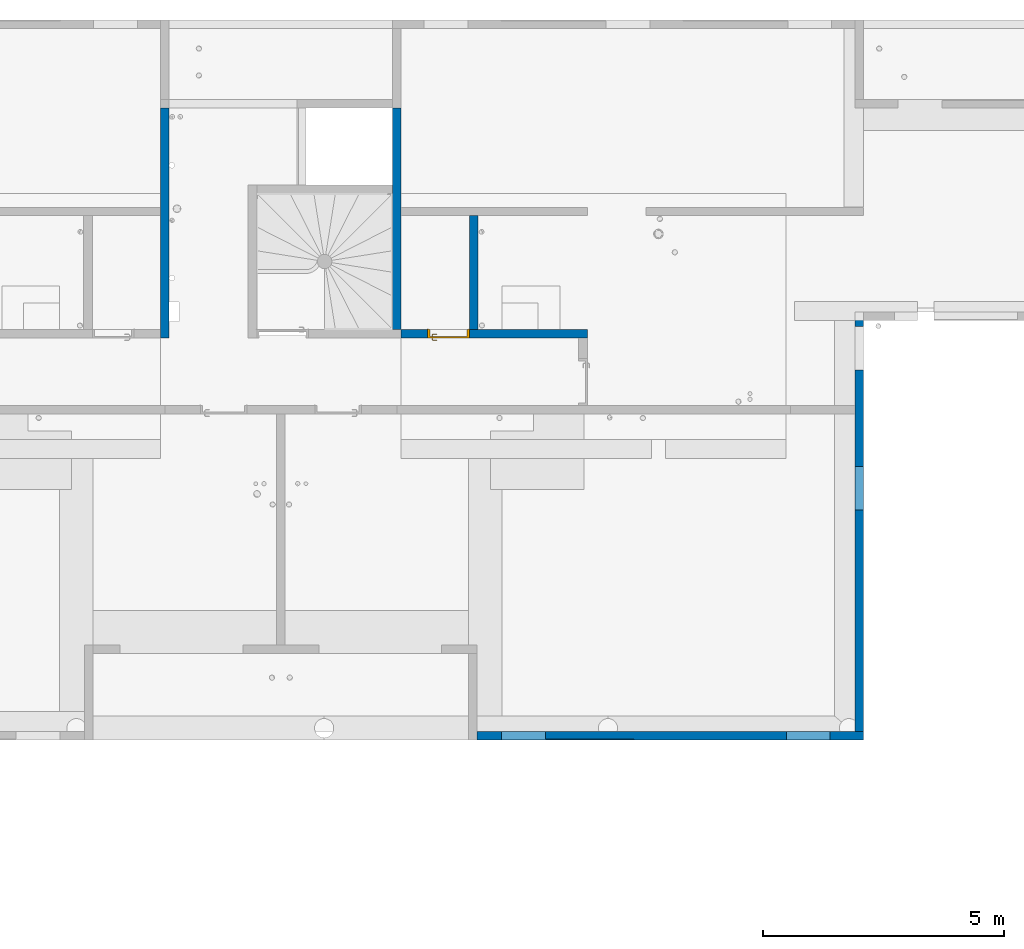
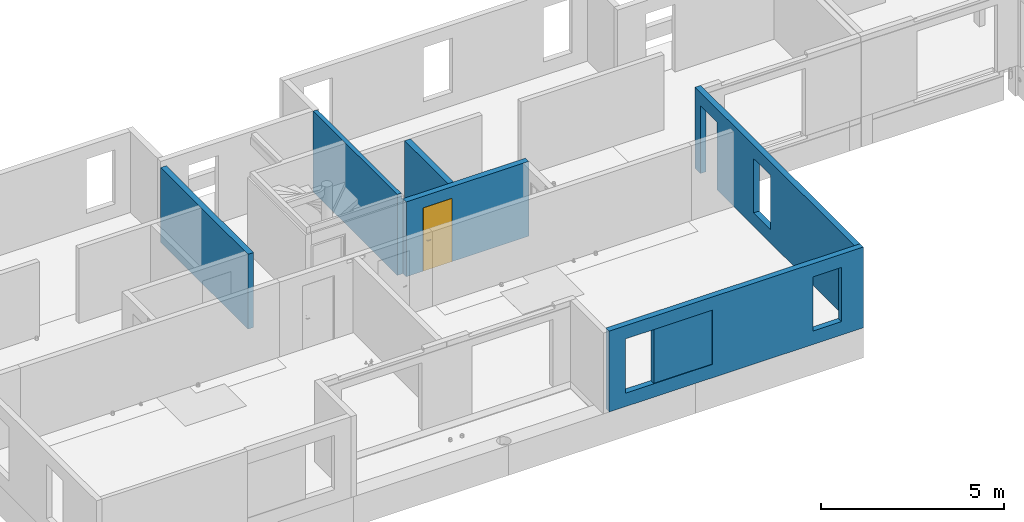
# One storey, part 11 of 34: 6 walls, 1 door, 8 openings.
"""IFC2X3 building model written with IfcOpenShell, lengths in centimetres."""

from ifc_helpers import new_model, entity, si_unit, converted_unit, derived_unit, direction, frame, frame_2d, origin, origin_2d_with_axis, place, context, subcontext, project, spatial, polyline, rectangle, extrude, clip, bounded_halfspace, faceted_brep, source, transform, mapped, material, material_list, layer, layer_set, layer_usage, type_object, type_shapes, element, fill, save


model = new_model("IFC2X3")

# Units and contexts
model_context = context("Model", 3, precision=0.001, world=origin(), true_north=direction((6.12303176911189e-17, 1.0)))
body_context = subcontext(model_context, "Body", "Model", "MODEL_VIEW")
ifc_project = project(units=[si_unit("LENGTHUNIT", "METRE", prefix="CENTI"), si_unit("AREAUNIT", "SQUARE_METRE"), si_unit("VOLUMEUNIT", "CUBIC_METRE"), converted_unit("PLANEANGLEUNIT", "DEGREE", entity("IfcRatioMeasure", 0.0174532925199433), si_unit("PLANEANGLEUNIT", "RADIAN"), dimensions=[0, 0, 0, 0, 0, 0, 0]), si_unit("MASSUNIT", "GRAM", prefix="KILO"), derived_unit("MASSDENSITYUNIT", [(si_unit("MASSUNIT", "GRAM", prefix="KILO"), 1), (si_unit("LENGTHUNIT", "METRE"), -3)]), si_unit("TIMEUNIT", "SECOND"), si_unit("FREQUENCYUNIT", "HERTZ"), si_unit("THERMODYNAMICTEMPERATUREUNIT", "DEGREE_CELSIUS"), derived_unit("THERMALTRANSMITTANCEUNIT", [(si_unit("MASSUNIT", "GRAM", prefix="KILO"), 1), (si_unit("THERMODYNAMICTEMPERATUREUNIT", "KELVIN"), -1), (si_unit("TIMEUNIT", "SECOND"), -3)]), derived_unit("VOLUMETRICFLOWRATEUNIT", [(si_unit("LENGTHUNIT", "METRE"), 3), (si_unit("TIMEUNIT", "SECOND"), -1)]), si_unit("ELECTRICCURRENTUNIT", "AMPERE"), si_unit("ELECTRICVOLTAGEUNIT", "VOLT"), si_unit("POWERUNIT", "WATT"), si_unit("FORCEUNIT", "NEWTON"), si_unit("ILLUMINANCEUNIT", "LUX"), si_unit("LUMINOUSFLUXUNIT", "LUMEN"), si_unit("LUMINOUSINTENSITYUNIT", "CANDELA"), derived_unit("USERDEFINED", [(si_unit("MASSUNIT", "GRAM", prefix="KILO"), -1), (si_unit("LENGTHUNIT", "METRE"), -2), (si_unit("TIMEUNIT", "SECOND"), 3), (si_unit("LUMINOUSFLUXUNIT", "LUMEN"), 1)]), derived_unit("LINEARVELOCITYUNIT", [(si_unit("LENGTHUNIT", "METRE"), 1), (si_unit("TIMEUNIT", "SECOND"), -1)]), si_unit("PRESSUREUNIT", "PASCAL"), derived_unit("USERDEFINED", [(si_unit("LENGTHUNIT", "METRE"), -2), (si_unit("MASSUNIT", "GRAM", prefix="KILO"), 1), (si_unit("TIMEUNIT", "SECOND"), -2)])], contexts=[model_context])

# Site, building, storey
site_placement = place(None, origin())
site = spatial("IfcSite", under=ifc_project, at=site_placement, Name="Default", CompositionType="ELEMENT")
building_placement = place(site_placement, origin())
building = spatial("IfcBuilding", under=site, at=building_placement, Name="CAGE 03", CompositionType="ELEMENT")
storey_placement = place(building_placement, frame((0.0, 0.0, 340.0)))
storey = spatial("IfcBuildingStorey", under=building, at=storey_placement, Name="R+1", CompositionType="ELEMENT", Elevation=340.0)

# Wall, openings
ifc_material_1 = material(Name="Béton, C25/30")
ifc_layer_1 = layer(ifc_material_1, 18.0)
ifc_layer_set_1 = layer_set([ifc_layer_1], Name="Mur de base:Voile BA 18")
ifc_layer_usage_1 = layer_usage(ifc_layer_set_1, "AXIS2", "POSITIVE", -9.0)
wall_type_1 = type_object("IfcWallType", Name="Mur de base:Voile BA 18", PredefinedType="STANDARD", material=ifc_layer_set_1)
wall_1_placement = place(storey_placement, frame((7489.36582014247, 3805.6606660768, 0.0)))
wall_1 = element("IfcWallStandardCase", 1, at=wall_1_placement, inside=storey, type_object=wall_type_1, material=ifc_layer_usage_1, Name="Mur de base:Voile BA 18", ObjectType="Mur de base:Voile BA 18", context=body_context, shape_type="SweptSolid", body=[
    extrude(rectangle(XDim=803.000000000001, YDim=18.0000000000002, at=frame_2d((401.500000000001, -2.8421709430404e-14), x_axis=(-1.0, 0.0))), origin(), (0.0, 0.0, 1.0), 270.0),
])
opening_1_placement = place(wall_1_placement, origin())
element("IfcOpeningElement", 2, at=opening_1_placement, cuts=wall_1, Name="Mur de base:Voile BA 18", ObjectType="Recess", context=body_context, shape_type="SweptSolid", body=[
    extrude(rectangle(XDim=181.0, YDim=184.0, at=origin_2d_with_axis()), frame((234.0, -9.0, 135.5), z_axis=(0.0, 1.0, 0.0), x_axis=(0.0, 0.0, -1.0)), (0.0, 0.0, 1.0), 1.99999999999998),
])
opening_2_placement = place(wall_1_placement, origin())
element("IfcOpeningElement", 3, at=opening_2_placement, cuts=wall_1, Name="Mur de base:Voile BA 18", ObjectType="Recess", context=body_context, shape_type="SweptSolid", body=[
    extrude(rectangle(XDim=181.0, YDim=184.0, at=origin_2d_with_axis()), frame((-1050.0, -9.0, 135.5), z_axis=(0.0, 1.0, 0.0), x_axis=(0.0, 0.0, -1.0)), (0.0, 0.0, 1.0), 1.99999999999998),
])
opening_3_placement = place(wall_1_placement, frame((-7489.36582014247, -3805.6606660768, 0.0)))
element("IfcOpeningElement", 4, at=opening_3_placement, cuts=wall_1, Name="Mur de base:Voile BA 18", ObjectType="Opening", context=body_context, shape_type="SweptSolid", body=[
    extrude(rectangle(XDim=181.0, YDim=91.0000000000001, at=frame_2d((0.0, 0.0), x_axis=(0.0, 1.0))), frame((7585.86582014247, 3644.2606660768, 135.5), z_axis=(0.0, 1.0, 0.0), x_axis=(-1.0, 0.0, 0.0)), (0.0, 0.0, 1.0), 304.8),
])
opening_4_placement = place(wall_1_placement, frame((-7489.36582014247, -3805.6606660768, 0.0)))
element("IfcOpeningElement", 5, at=opening_4_placement, cuts=wall_1, Name="Mur de base:Voile BA 18", ObjectType="Opening", context=body_context, shape_type="SweptSolid", body=[
    extrude(rectangle(XDim=181.0, YDim=91.0000000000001, at=frame_2d((0.0, 0.0), x_axis=(0.0, 1.0))), frame((8177.86582014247, 3644.2606660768, 135.5), z_axis=(0.0, 1.0, 0.0), x_axis=(-1.0, 0.0, 0.0)), (0.0, 0.0, 1.0), 304.8),
])

ifc_layer_usage_2 = layer_usage(ifc_layer_set_1, "AXIS2", "POSITIVE", -9.0)
wall_2_placement = place(storey_placement, frame((8283.36582014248, 3814.6606660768, 0.0), z_axis=(0.0, 0.0, 1.0), x_axis=(0.0, 1.0, 0.0)))
wall_2 = element("IfcWallStandardCase", 6, at=wall_2_placement, inside=storey, type_object=wall_type_1, material=ifc_layer_usage_2, Name="Mur de base:Voile BA 18", ObjectType="Mur de base:Voile BA 18", context=body_context, shape_type="SweptSolid", body=[
    extrude(rectangle(XDim=871.999999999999, YDim=17.9999999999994, at=frame_2d((436.0, -4.15667500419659e-13), x_axis=(-1.0, 0.0))), origin(), (0.0, 0.0, 1.0), 270.0),
])
opening_5_placement = place(wall_2_placement, origin())
element("IfcOpeningElement", 7, at=opening_5_placement, cuts=wall_2, Name="Mur de base:Voile BA 18", ObjectType="Opening", context=body_context, shape_type="SweptSolid", body=[
    extrude(rectangle(XDim=226.0, YDim=91.0000000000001, at=frame_2d((-5.6843418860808e-14, 0.0), x_axis=(1.0, 0.0))), frame((796.499999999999, -143.4, 383.0), z_axis=(0.0, 1.0, 0.0), x_axis=(0.0, 0.0, 1.0)), (0.0, 0.0, 1.0), 304.8),
])
opening_6_placement = place(wall_2_placement, frame((-3814.6606660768, 8283.36582014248, 0.0), z_axis=(0.0, 0.0, 1.0), x_axis=(0.0, -1.0, 0.0)))
element("IfcOpeningElement", 8, at=opening_6_placement, cuts=wall_2, Name="Mur de base:Voile BA 18", ObjectType="Opening", context=body_context, shape_type="SweptSolid", body=[
    extrude(rectangle(XDim=226.0, YDim=91.0000000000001, at=frame_2d((5.6843418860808e-14, 0.0), x_axis=(1.0, 0.0))), frame((8426.76582014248, 4611.1606660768, 113.0), z_axis=(-1.0, 0.0, 0.0), x_axis=(0.0, 0.0, 1.0)), (0.0, 0.0, 1.0), 304.8),
])
opening_7_placement = place(wall_2_placement, frame((-3814.6606660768, 8283.36582014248, 0.0), z_axis=(0.0, 0.0, 1.0), x_axis=(0.0, -1.0, 0.0)))
element("IfcOpeningElement", 9, at=opening_7_placement, cuts=wall_2, Name="Mur de base:Voile BA 18", ObjectType="Opening", context=body_context, shape_type="SweptSolid", body=[
    extrude(rectangle(XDim=181.0, YDim=91.0000000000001, at=origin_2d_with_axis()), frame((8426.76582014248, 4320.16066607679, 135.5), z_axis=(-1.0, 0.0, 0.0), x_axis=(0.0, 0.0, 1.0)), (0.0, 0.0, 1.0), 304.8),
])

# Walls
ifc_layer_usage_3 = layer_usage(ifc_layer_set_1, "AXIS2", "NEGATIVE", 9.0)
wall_3_placement = place(storey_placement, frame((6840.36582014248, 5110.6606660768, 0.0), z_axis=(0.0, 0.0, 1.0), x_axis=(0.0, -1.0, 0.0)))
element("IfcWallStandardCase", 10, at=wall_3_placement, inside=storey, type_object=wall_type_1, material=ifc_layer_usage_3, Name="Mur de base:Voile BA 18", ObjectType="Mur de base:Voile BA 18", context=body_context, shape_type="SweptSolid", body=[
    extrude(rectangle(XDim=478.0, YDim=17.9999999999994, at=frame_2d((239.0, 1.67865721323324e-13), x_axis=(-1.0, 0.0))), origin(), (0.0, 0.0, 1.0), 250.0),
])
ifc_layer_usage_4 = layer_usage(ifc_layer_set_1, "AXIS2", "POSITIVE", -9.0)
wall_4_placement = place(storey_placement, frame((7482.36582014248, 4887.6606660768, 0.0), z_axis=(0.0, 0.0, 1.0), x_axis=(0.0, -1.0, 0.0)))
element("IfcWallStandardCase", 11, at=wall_4_placement, inside=storey, type_object=wall_type_1, material=ifc_layer_usage_4, Name="Mur de base:Voile BA 18", ObjectType="Mur de base:Voile BA 18", context=body_context, shape_type="SweptSolid", body=[
    extrude(rectangle(XDim=236.999999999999, YDim=17.9999999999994, at=frame_2d((118.499999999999, 0.0), x_axis=(-1.0, 0.0))), origin(), (0.0, 0.0, 1.0), 250.0),
])

# Wall, opening, door
ifc_layer_usage_5 = layer_usage(ifc_layer_set_1, "AXIS2", "NEGATIVE", 9.0)
wall_5_placement = place(storey_placement, frame((7331.36582014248, 4641.6606660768, 0.0)))
wall_5 = element("IfcWallStandardCase", 12, at=wall_5_placement, inside=storey, type_object=wall_type_1, material=ifc_layer_usage_5, Name="Mur de base:Voile BA 18", ObjectType="Mur de base:Voile BA 18", context=body_context, shape_type="SweptSolid", body=[
    extrude(rectangle(XDim=386.999999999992, YDim=17.9999999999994, at=frame_2d((193.499999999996, -1.16351372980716e-13), x_axis=(-1.0, 0.0))), origin(), (0.0, 0.0, 1.0), 250.0),
])
opening_8_placement = place(wall_5_placement, frame((142.0, 9.0, 0.0)))
opening_8 = element("IfcOpeningElement", 13, at=opening_8_placement, cuts=wall_5, Name="Int. Simple:HB83:1", ObjectType="Opening", context=body_context, shape_type="SweptSolid", body=[
    extrude(rectangle(XDim=210.000000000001, YDim=86.9999999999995, at=frame_2d((105.000000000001, 43.4999999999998), x_axis=(1.0, 0.0))), frame((0.0, 0.0, 0.0), z_axis=(0.0, -1.0, 0.0), x_axis=(0.0, 0.0, 1.0)), (0.0, 0.0, 1.0), 18.0),
])
ifc_material_2 = material(Name="Finition Peinture - Blanc satiné")
ifc_material_3 = material(Name="Bois - Panneau de porte")
ifc_material_4 = material(Name="Bois - Cadre de porte")
ifc_material_list_1 = material_list([ifc_material_2, ifc_material_3, ifc_material_4])
ifc_material_list_2 = material_list([ifc_material_2, ifc_material_3, ifc_material_4])
door_style = type_object("IfcDoorStyle", Name="HB83", ConstructionType="NOTDEFINED", OperationType="SINGLE_SWING_LEFT", ParameterTakesPrecedence=False, Sizeable=False, material=ifc_material_list_2)
shared_shape = source(origin(), body_context, "Body", "Brep", [
    faceted_brep([(10.5352761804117, -0.500000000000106, 86.6003983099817), (11.5000000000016, -0.500000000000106, 87.0), (11.5000000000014, -0.500000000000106, 108.0), (10.5352761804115, -0.500000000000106, 108.399601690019), (9.50000000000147, -0.500000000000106, 108.535898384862), (8.4647238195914, -0.500000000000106, 108.399601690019), (7.5000000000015, -0.500000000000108, 108.0), (7.50000000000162, -0.500000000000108, 87.0), (8.46472381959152, -0.500000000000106, 86.6003983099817), (9.50000000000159, -0.500000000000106, 86.464101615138), (10.5352761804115, 0.0, 108.399601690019), (11.5000000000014, 0.0, 108.0), (11.5000000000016, 0.0, 87.0), (10.5352761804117, 0.0, 86.6003983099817), (9.50000000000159, 0.0, 86.464101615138), (8.46472381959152, 0.0, 86.6003983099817), (7.50000000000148, 0.0, 87.0), (7.5000000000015, 0.0, 108.0), (8.4647238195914, 0.0, 108.399601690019), (9.50000000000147, 0.0, 108.535898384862)], [[[0, 1, 2, 3, 4, 5, 6, 7, 8, 9]], [[10, 11, 12, 13, 14, 15, 16, 17, 18, 19]], [[16, 15, 8, 7]], [[8, 15, 14, 9]], [[14, 13, 0, 9]], [[13, 12, 1, 0]], [[2, 1, 12, 11]], [[11, 10, 3, 2]], [[3, 10, 19, 4]], [[19, 18, 5, 4]], [[18, 17, 6, 5]], [[7, 6, 17, 16]]]),
    faceted_brep([(10.5352761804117, 3.0, 86.6003983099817), (11.5000000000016, 3.0, 87.0), (11.5000000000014, 3.0, 108.0), (10.5352761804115, 3.0, 108.399601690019), (9.50000000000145, 3.0, 108.535898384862), (8.46472381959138, 3.0, 108.399601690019), (7.50000000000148, 3.0, 108.0), (7.50000000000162, 3.0, 87.0), (8.46472381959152, 3.0, 86.6003983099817), (9.5000000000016, 3.0, 86.464101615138), (10.5352761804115, 3.49999999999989, 108.399601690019), (11.5000000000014, 3.49999999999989, 108.0), (11.5000000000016, 3.49999999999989, 87.0), (10.5352761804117, 3.49999999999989, 86.6003983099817), (9.5000000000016, 3.49999999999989, 86.464101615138), (8.46472381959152, 3.49999999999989, 86.6003983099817), (7.50000000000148, 3.49999999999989, 87.0), (7.50000000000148, 3.49999999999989, 108.0), (8.46472381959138, 3.49999999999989, 108.399601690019), (9.50000000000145, 3.49999999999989, 108.535898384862)], [[[0, 1, 2, 3, 4, 5, 6, 7, 8, 9]], [[10, 11, 12, 13, 14, 15, 16, 17, 18, 19]], [[11, 10, 3, 2]], [[3, 10, 19, 4]], [[19, 18, 5, 4]], [[18, 17, 6, 5]], [[7, 6, 17, 16]], [[16, 15, 8, 7]], [[8, 15, 14, 9]], [[14, 13, 0, 9]], [[13, 12, 1, 0]], [[2, 1, 12, 11]]]),
    faceted_brep([(9.2974701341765, -0.500000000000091, 100.778044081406), (9.70252986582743, -0.500000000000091, 100.778044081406), (10.1000000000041, -0.500000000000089, 100.699999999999), (10.1000000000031, -0.500000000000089, 99.3000000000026), (9.70252986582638, -0.500000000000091, 99.2219559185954), (9.29747013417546, -0.500000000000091, 99.2219559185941), (8.89999999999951, -0.500000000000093, 99.2999999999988), (8.8999999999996, -0.500000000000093, 100.7), (8.89999999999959, -3.26509507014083, 100.7), (9.29747013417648, -3.1004575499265, 100.778044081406), (10.9023585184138, -4.70534593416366, 100.778044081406), (11.0701397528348, -4.30028620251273, 100.778044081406), (9.70252986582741, -2.93267631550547, 100.778044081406), (10.1000000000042, -2.76803879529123, 100.7), (10.1000000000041, -2.76803879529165, 99.3000000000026), (9.70252986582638, -2.93267631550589, 99.2219559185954), (11.0701397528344, -4.30028620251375, 99.2219559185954), (10.9023585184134, -4.70534593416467, 99.2219559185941), (9.29747013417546, -3.10045754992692, 99.2219559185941), (8.89999999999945, -3.26509507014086, 99.2999999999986), (10.7377209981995, -5.10281606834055, 100.7), (11.2347772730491, -3.90281606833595, 100.7), (11.2347772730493, -3.90281606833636, 99.3000000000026), (10.7377209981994, -5.10281606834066, 99.2999999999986), (19.5018640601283, -5.10281606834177, 99.2999999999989), (19.5018640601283, -4.70534593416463, 99.2219559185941), (19.5018640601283, -4.30028620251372, 99.2219559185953), (19.5018640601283, -3.90281606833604, 99.3000000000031), (19.5018640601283, -3.90281606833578, 100.7), (19.5018640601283, -4.30028620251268, 100.778044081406), (19.5018640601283, -4.7053459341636, 100.778044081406), (19.5018640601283, -5.10281606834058, 100.699999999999), (14.7307697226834, -5.10281606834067, 100.7), (15.2860019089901, -4.50281606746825, 100.78786867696), (15.3683206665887, -3.90281606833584, 100.7), (15.3683206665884, -3.90281606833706, 99.3000000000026), (15.2860018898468, -4.50281607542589, 99.2121313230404), (14.7307703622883, -5.10281606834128, 99.2999999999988)], [[[0, 1, 2, 3, 4, 5, 6, 7]], [[8, 9, 0, 7]], [[9, 10, 11, 12, 1, 0]], [[12, 13, 2, 1]], [[3, 2, 13, 14]], [[14, 15, 4, 3]], [[15, 16, 17, 18, 5, 4]], [[18, 19, 6, 5]], [[7, 6, 19, 8]], [[20, 10, 9, 8]], [[11, 21, 13, 12]], [[14, 13, 21, 22]], [[22, 16, 15, 14]], [[17, 23, 19, 18]], [[8, 19, 23, 20]], [[24, 25, 26, 27, 28, 29, 30, 31]], [[32, 30, 33]], [[31, 30, 32]], [[10, 20, 32]], [[33, 34, 11]], [[21, 11, 34]], [[34, 29, 28]], [[30, 29, 33]], [[29, 34, 33]], [[10, 32, 33]], [[10, 33, 11]], [[22, 21, 34, 28, 27, 35]], [[35, 26, 36]], [[37, 36, 25]], [[22, 35, 16]], [[35, 27, 26]], [[24, 37, 25]], [[23, 17, 37]], [[37, 17, 36]], [[17, 16, 36]], [[16, 35, 36]], [[25, 36, 26]], [[20, 23, 37, 24, 31, 32]]]),
    faceted_brep([(9.29747013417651, 3.49999999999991, 100.778044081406), (8.89999999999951, 3.4999999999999, 100.7), (8.89999999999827, 3.4999999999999, 99.299999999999), (9.29747013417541, 3.49999999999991, 99.2219559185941), (9.70252986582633, 3.49999999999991, 99.2219559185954), (10.100000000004, 3.49999999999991, 99.3000000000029), (10.1000000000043, 3.49999999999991, 100.7), (9.70252986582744, 3.49999999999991, 100.778044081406), (10.100000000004, 5.74852045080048, 99.3000000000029), (10.100000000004, 5.74852045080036, 100.7), (9.70252986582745, 5.91315797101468, 100.778044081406), (11.0838906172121, 7.29451872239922, 100.778044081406), (10.9161093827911, 7.69957845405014, 100.778044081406), (9.29747013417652, 6.08093920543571, 100.778044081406), (8.8999999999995, 6.2455767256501, 100.7), (8.89999999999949, 6.24557672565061, 99.299999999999), (9.29747013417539, 6.08093920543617, 99.2219559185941), (10.9161093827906, 7.69957845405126, 99.2219559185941), (11.0838906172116, 7.29451872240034, 99.2219559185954), (9.70252986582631, 5.91315797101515, 99.2219559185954), (11.2485281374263, 6.89704858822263, 99.3000000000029), (11.2485281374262, 6.89704858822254, 100.7), (10.7514718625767, 8.09704858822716, 100.7), (10.7514718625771, 8.09704858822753, 99.299999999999), (19.5045783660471, 6.8970485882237, 99.3000000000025), (19.5045783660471, 7.29451872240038, 99.2219559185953), (19.5045783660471, 7.6995784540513, 99.2219559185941), (19.5045783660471, 8.09704858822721, 99.2999999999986), (19.5045783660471, 8.0970485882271, 100.7), (19.5045783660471, 7.6995784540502, 100.778044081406), (19.5045783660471, 7.29451872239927, 100.778044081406), (19.5045783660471, 6.89704858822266, 100.7), (15.3765532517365, 6.89704858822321, 99.3000000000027), (15.3765532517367, 6.89704858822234, 100.7), (15.2942344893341, 7.4970485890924, 100.78786867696), (14.7445205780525, 8.09704858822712, 100.7), (14.7445205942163, 8.09704858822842, 99.299999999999), (15.2942345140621, 7.49704858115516, 99.2121313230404)], [[[0, 1, 2, 3, 4, 5, 6, 7]], [[6, 5, 8, 9]], [[9, 10, 7, 6]], [[10, 11, 12, 13, 0, 7]], [[13, 14, 1, 0]], [[2, 1, 14, 15]], [[15, 16, 3, 2]], [[16, 17, 18, 19, 4, 3]], [[19, 8, 5, 4]], [[9, 8, 20, 21]], [[21, 11, 10, 9]], [[12, 22, 14, 13]], [[15, 14, 22, 23]], [[23, 17, 16, 15]], [[18, 20, 8, 19]], [[24, 25, 26, 27, 28, 29, 30, 31]], [[21, 20, 32, 24, 31, 33]], [[33, 30, 34]], [[35, 34, 29]], [[21, 33, 11]], [[33, 31, 30]], [[28, 35, 29]], [[22, 12, 35]], [[35, 12, 34]], [[12, 11, 34]], [[11, 33, 34]], [[29, 34, 30]], [[22, 35, 28, 27, 36, 23]], [[36, 26, 37]], [[27, 26, 36]], [[17, 23, 36]], [[37, 32, 18]], [[20, 18, 32]], [[32, 25, 24]], [[26, 25, 37]], [[25, 32, 37]], [[17, 36, 37]], [[17, 37, 18]]]),
    faceted_brep([(3.50000000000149, 3.0, 206.5), (83.5000000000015, 3.0, 206.5), (83.5000000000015, 3.0, 0.0), (3.50000000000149, 3.0, 0.0), (3.50000000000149, 0.0, 206.5), (3.50000000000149, 0.0, 0.0), (83.5000000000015, 0.0, 0.0), (83.5000000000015, 0.0, 206.5)], [[[0, 1, 2, 3]], [[4, 5, 6, 7]], [[1, 0, 4, 7]], [[2, 1, 7, 6]], [[3, 2, 6, 5]], [[0, 3, 5, 4]]]),
    faceted_brep([(0.0, 0.0, 0.0), (0.0, 18.0, 0.0), (5.0, 18.0, 0.0), (5.0, 3.0, 0.0), (3.50000000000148, 3.0, 0.0), (3.50000000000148, 0.0, 0.0), (0.0, 0.0, 210.0), (0.0, 18.0, 210.0), (87.0, 18.0, 210.0), (87.0, 18.0, 0.0), (82.0, 18.0, 0.0), (82.0, 18.0, 205.0), (5.0, 18.0, 205.0), (5.0, 3.0, 205.0), (82.0, 3.0, 205.0), (82.0, 3.0, 0.0), (83.4999999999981, 3.0, 0.0), (83.4999999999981, 3.0, 206.5), (3.50000000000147, 3.0, 206.5), (3.50000000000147, 0.0, 206.5), (83.4999999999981, 0.0, 206.5), (83.4999999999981, 0.0, 0.0), (87.0, 0.0, 0.0), (87.0, 0.0, 210.0)], [[[0, 1, 2, 3, 4, 5]], [[1, 0, 6, 7]], [[2, 1, 7, 8, 9, 10, 11, 12]], [[3, 2, 12, 13]], [[4, 3, 13, 14, 15, 16, 17, 18]], [[5, 4, 18, 19]], [[0, 5, 19, 20, 21, 22, 23, 6]], [[8, 23, 22, 9]], [[22, 21, 16, 15, 10, 9]], [[14, 11, 10, 15]], [[20, 17, 16, 21]], [[7, 6, 23, 8]], [[13, 12, 11, 14]], [[19, 18, 17, 20]]]),
    faceted_brep([(1.5, 18.0, 0.0), (-1.5, 18.0, 0.0), (-1.5, 18.5000000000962, 0.0), (1.5, 18.5000000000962, 0.0), (1.49999999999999, 18.0, 208.500000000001), (85.4999999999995, 18.0, 208.500000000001), (85.4999999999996, 18.0, 0.0), (88.4999999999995, 18.0, 0.0), (88.4999999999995, 18.0, 211.500000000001), (-1.49999999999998, 18.0, 211.500000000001), (-1.49999999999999, 18.5000000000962, 211.500000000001), (88.4999999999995, 18.5000000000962, 211.500000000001), (88.4999999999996, 18.5000000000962, 0.0), (85.4999999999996, 18.5000000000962, 0.0), (85.4999999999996, 18.5000000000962, 208.500000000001), (1.49999999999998, 18.5000000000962, 208.500000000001)], [[[0, 1, 2, 3]], [[1, 0, 4, 5, 6, 7, 8, 9]], [[2, 1, 9, 10]], [[3, 2, 10, 11, 12, 13, 14, 15]], [[0, 3, 15, 4]], [[6, 13, 12, 7]], [[5, 14, 13, 6]], [[11, 8, 7, 12]], [[10, 9, 8, 11]], [[4, 15, 14, 5]]]),
    faceted_brep([(-1.5, -0.5, 0.0), (1.5, -0.5, 0.0), (1.49999999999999, -0.5, 208.500000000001), (85.4999999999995, -0.5, 208.500000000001), (85.4999999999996, -0.5, 0.0), (88.4999999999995, -0.5, 0.0), (88.4999999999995, -0.5, 211.500000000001), (-1.49999999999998, -0.5, 211.500000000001), (-1.5, 0.0, 0.0), (-1.49999999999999, 0.0, 211.500000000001), (1.5, 0.0, 0.0), (88.4999999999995, 0.0, 211.500000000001), (88.4999999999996, 0.0, 0.0), (85.4999999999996, 0.0, 0.0), (85.4999999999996, 0.0, 208.500000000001), (1.49999999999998, 0.0, 208.500000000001)], [[[0, 1, 2, 3, 4, 5, 6, 7]], [[8, 0, 7, 9]], [[10, 8, 9, 11, 12, 13, 14, 15]], [[1, 10, 15, 2]], [[3, 14, 13, 4]], [[11, 6, 5, 12]], [[9, 7, 6, 11]], [[2, 15, 14, 3]], [[4, 13, 12, 5]], [[1, 0, 8, 10]]]),
])
type_shapes(door_style, [shared_shape])
door_placement = place(opening_8_placement, frame((-87.0, -18.0, 0.0)))
door = element("IfcDoor", 14, at=door_placement, inside=storey, type_object=door_style, material=ifc_material_list_1, Name="Int. Simple:HB83", ObjectType="HB83", OverallHeight=210.000000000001, OverallWidth=86.9999999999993, context=body_context, shape_type="MappedRepresentation", body=[
    mapped(shared_shape, transform((0.0, 0.0, 0.0), scale=1.0)),
])
fill(opening_8, door)

# Wall
ifc_material_5 = material(Name="Béton, panneaux préfa 30/37")
ifc_layer_2 = layer(ifc_material_5, 5.5)
ifc_layer_3 = layer(ifc_material_1, 7.0)
ifc_layer_4 = layer(ifc_material_5, 5.5)
ifc_layer_set_2 = layer_set([ifc_layer_2, ifc_layer_3, ifc_layer_4], Name="Mur de base:premur 18")
ifc_layer_usage_6 = layer_usage(ifc_layer_set_2, "AXIS2", "POSITIVE", -9.0)
wall_type_2 = type_object("IfcWallType", Name="Mur de base:premur 18", PredefinedType="NOTDEFINED")
wall_6_placement = place(storey_placement, frame((7322.36582014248, 4650.6606660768, 0.0), z_axis=(0.0, 0.0, 1.0), x_axis=(0.0, 1.0, 0.0)))
element("IfcWallStandardCase", 15, at=wall_6_placement, inside=storey, type_object=wall_type_2, material=ifc_layer_usage_6, Name="Mur de base:premur 18", ObjectType="Mur de base:premur 18", context=body_context, shape_type="Clipping", body=[
    clip(clip(extrude(rectangle(XDim=459.999999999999, YDim=17.9999999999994, at=frame_2d((230.0, 7.72715225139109e-14), x_axis=(-1.0, 0.0))), origin(), (0.0, 0.0, 1.0), 270.0), bounded_halfspace(frame((460.0, -3.49999999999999, 250.0), z_axis=(0.0, 0.0, -1.0), x_axis=(0.0, 1.0, 0.0)), True, frame((460.0, -3.49999999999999, 250.0), z_axis=(0.0, 0.0, -1.0), x_axis=(0.0, 1.0, 0.0)), polyline([(0.0, 0.0), (-5.50000000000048, 0.0), (-5.50000000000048, -207.0), (-5.50000000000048, -223.0), (-5.49999999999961, -460.0), (0.0, -460.0), (0.0, 0.0)]))), bounded_halfspace(frame((0.0, -3.50000000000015, 250.0), z_axis=(0.0, 1.0, 0.0), x_axis=(0.0, 0.0, 1.0)), True, frame((0.0, -3.50000000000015, 250.0), z_axis=(0.0, 1.0, 0.0), x_axis=(0.0, 0.0, 1.0)), polyline([(0.0, 0.0), (20.0, 0.0), (20.0, 460.0), (0.0, 460.0), (0.0, 0.0)]))),
])

save(model, "model.ifc")
